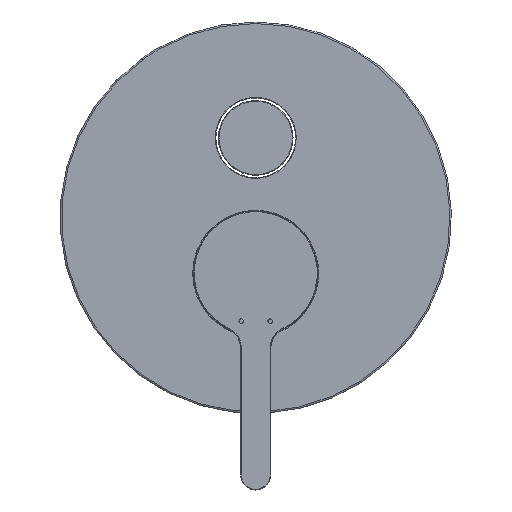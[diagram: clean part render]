
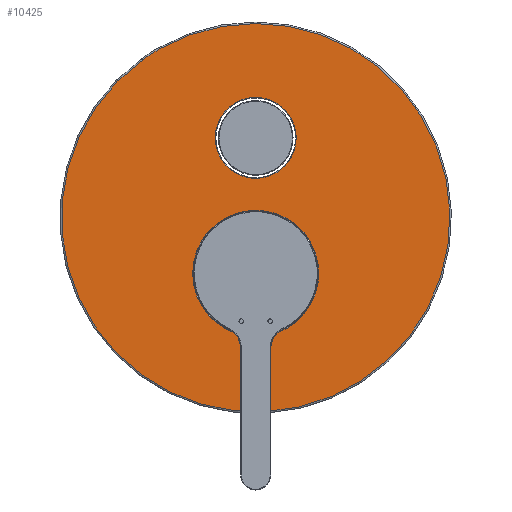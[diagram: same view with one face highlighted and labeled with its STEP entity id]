
A CAD part, top view. The second image highlights one B-rep face of the part: STEP entity #10425.
In plain terms, the highlighted planar face has unit normal (0, 0, 1) as drawn and (0, 1, 0) by its records, which use the part's own axes.
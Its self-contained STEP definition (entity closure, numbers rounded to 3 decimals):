
#5491=CARTESIAN_POINT('',(0.,12.5,0.));
#5492=DIRECTION('',(0.,1.,0.));
#5493=DIRECTION('',(-0.585,0.,-0.811));
#5494=AXIS2_PLACEMENT_3D('',#5491,#5492,#5493);
#5496=CARTESIAN_POINT('',(0.,12.5,0.));
#5497=DIRECTION('',(0.,1.,0.));
#5498=DIRECTION('',(-0.494,0.,-0.869));
#5499=AXIS2_PLACEMENT_3D('',#5496,#5497,#5498);
#5501=CARTESIAN_POINT('',(0.,12.5,-26.5));
#5502=DIRECTION('',(0.,-1.,0.));
#5503=DIRECTION('',(-1.,0.,0.));
#5504=AXIS2_PLACEMENT_3D('',#5501,#5502,#5503);
#5506=CARTESIAN_POINT('',(0.,12.5,-26.5));
#5507=DIRECTION('',(0.,-1.,0.));
#5508=DIRECTION('',(1.,0.,0.));
#5509=AXIS2_PLACEMENT_3D('',#5506,#5507,#5508);
#5511=CARTESIAN_POINT('',(0.,12.5,18.5));
#5512=DIRECTION('',(0.,-1.,0.));
#5513=DIRECTION('',(-1.,0.,0.));
#5514=AXIS2_PLACEMENT_3D('',#5511,#5512,#5513);
#5516=CARTESIAN_POINT('',(0.,12.5,18.5));
#5517=DIRECTION('',(0.,-1.,0.));
#5518=DIRECTION('',(1.,0.,0.));
#5519=AXIS2_PLACEMENT_3D('',#5516,#5517,#5518);
#9548=CARTESIAN_POINT('',(-13.45,12.5,-26.5));
#9549=CARTESIAN_POINT('',(13.45,12.5,-26.5));
#9550=VERTEX_POINT('',#9548);
#9551=VERTEX_POINT('',#9549);
#9898=CARTESIAN_POINT('',(-20.95,12.5,18.5));
#9899=CARTESIAN_POINT('',(20.95,12.5,18.5));
#9900=VERTEX_POINT('',#9898);
#9901=VERTEX_POINT('',#9899);
#9906=CARTESIAN_POINT('',(-37.708,12.5,-52.33));
#9907=CARTESIAN_POINT('',(-31.889,12.5,-56.065));
#9908=VERTEX_POINT('',#9906);
#9909=VERTEX_POINT('',#9907);
#10403=CARTESIAN_POINT('',(0.,12.5,0.));
#10404=DIRECTION('',(0.,1.,0.));
#10405=DIRECTION('',(1.,0.,0.));
#10406=AXIS2_PLACEMENT_3D('',#10403,#10404,#10405);
#10407=PLANE('',#10406);
#10409=ORIENTED_EDGE('',*,*,#10408,.F.);
#10410=ORIENTED_EDGE('',*,*,#10393,.F.);
#10411=EDGE_LOOP('',(#10409,#10410));
#10412=FACE_OUTER_BOUND('',#10411,.F.);
#10414=ORIENTED_EDGE('',*,*,#10413,.F.);
#10416=ORIENTED_EDGE('',*,*,#10415,.F.);
#10417=EDGE_LOOP('',(#10414,#10416));
#10418=FACE_BOUND('',#10417,.F.);
#10420=ORIENTED_EDGE('',*,*,#10419,.F.);
#10422=ORIENTED_EDGE('',*,*,#10421,.F.);
#10423=EDGE_LOOP('',(#10420,#10422));
#10424=FACE_BOUND('',#10423,.F.);
#10425=ADVANCED_FACE('',(#10412,#10418,#10424),#10407,.T.);
#5495=CIRCLE('',#5494,64.5);
#5500=CIRCLE('',#5499,64.5);
#5505=CIRCLE('',#5504,13.45);
#5510=CIRCLE('',#5509,13.45);
#5515=CIRCLE('',#5514,20.95);
#5520=CIRCLE('',#5519,20.95);
#10393=EDGE_CURVE('',#9909,#9908,#5500,.T.);
#10408=EDGE_CURVE('',#9908,#9909,#5495,.T.);
#10413=EDGE_CURVE('',#9550,#9551,#5505,.T.);
#10415=EDGE_CURVE('',#9551,#9550,#5510,.T.);
#10419=EDGE_CURVE('',#9900,#9901,#5515,.T.);
#10421=EDGE_CURVE('',#9901,#9900,#5520,.T.);
